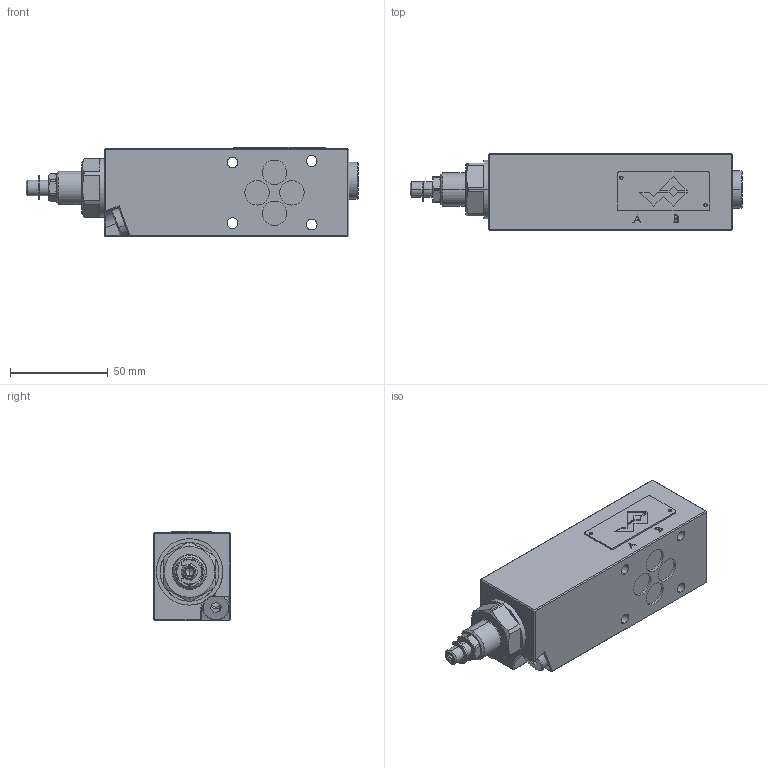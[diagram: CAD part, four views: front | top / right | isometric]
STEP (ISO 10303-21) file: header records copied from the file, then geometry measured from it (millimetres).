
FILE_DESCRIPTION (( 'STEP AP214' ), '1' );
FILE_NAME ('MVSSA06-P.STEP', '2024-02-22T09:26:56', ( '' ), ( '' ), 'SwSTEP 2.0', 'SolidWorks 2022', '' );
FILE_SCHEMA (( 'AUTOMOTIVE_DESIGN' ));
Length unit declared in the file: millimetre
Products named in the file (1): MVSSA06-P
Bounding box: 169.8 x 39.5 x 45.8 mm (x, y, z)
Volume: 228211.2 mm3; surface area: 31444.7 mm2
Topology: 1 solids, 1 shells, 334 faces, 809 edges, 505 vertices
Faces by surface type: plane 183, cylinder 93, cone 36, bspline 10, torus 8, sphere 4
Entity records: 14078 total; most frequent: CARTESIAN_POINT 2632, DIRECTION 1667, ORIENTED_EDGE 1602, EDGE_CURVE 801, AXIS2_PLACEMENT_3D 608, VERTEX_POINT 505, VECTOR 451, LINE 451
